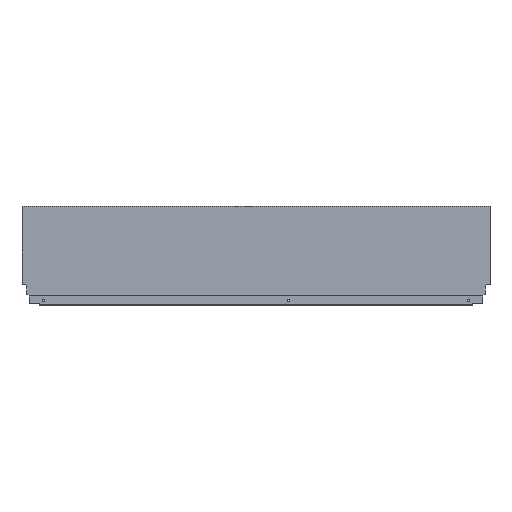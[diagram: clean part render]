
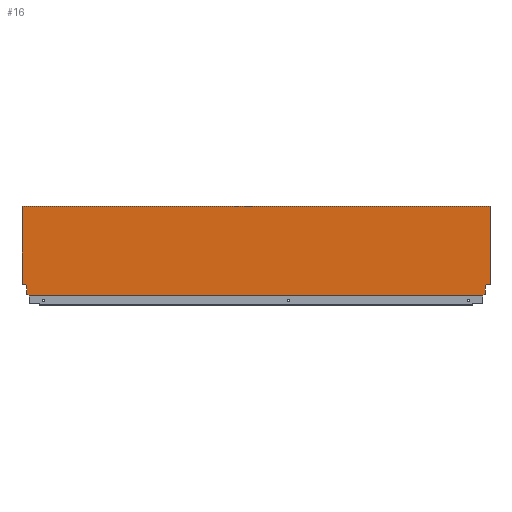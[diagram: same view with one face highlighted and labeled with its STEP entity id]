
A CAD part, top view. The second image highlights one B-rep face of the part: STEP entity #16.
In plain terms, the highlighted planar face has unit normal (0, 0, 1).
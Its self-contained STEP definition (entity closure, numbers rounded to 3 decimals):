
#16 = ADVANCED_FACE ( 'NONE', ( #1205 ), #341, .T. ) ;
#121 = CARTESIAN_POINT ( 'NONE',  ( -7.06, 21.2, 7.5 ) ) ;
#130 = CARTESIAN_POINT ( 'NONE',  ( -852.1, 2.64, 7.5 ) ) ;
#133 = CARTESIAN_POINT ( 'NONE',  ( 0., 21.2, 7.5 ) ) ;
#197 = CARTESIAN_POINT ( 'NONE',  ( -861., 21.2, 7.5 ) ) ;
#203 = CARTESIAN_POINT ( 'NONE',  ( -13.004, 1.146, 7.5 ) ) ;
#204 = CARTESIAN_POINT ( 'NONE',  ( -847.996, 1.146, 7.5 ) ) ;
#230 = CARTESIAN_POINT ( 'NONE',  ( -8.9, 10.765, 7.5 ) ) ;
#236 = CARTESIAN_POINT ( 'NONE',  ( -8.9, 2.64, 7.5 ) ) ;
#237 = CARTESIAN_POINT ( 'NONE',  ( -852.1, 10.765, 7.5 ) ) ;
#244 = CARTESIAN_POINT ( 'NONE',  ( -13.004, 0., 7.5 ) ) ;
#250 = CARTESIAN_POINT ( 'NONE',  ( -847.996, 0., 7.5 ) ) ;
#262 = CARTESIAN_POINT ( 'NONE',  ( -853.94, 21.2, 7.5 ) ) ;
#268 = CARTESIAN_POINT ( 'NONE',  ( -861., 164.7, 7.5 ) ) ;
#272 = CARTESIAN_POINT ( 'NONE',  ( 0., 164.7, 7.5 ) ) ;
#338 = DIRECTION ( 'NONE',  ( 1., 0., 0. ) ) ;
#339 = DIRECTION ( 'NONE',  ( 0., 0., 1. ) ) ;
#341 = PLANE ( 'NONE',  #599 ) ;
#342 = CARTESIAN_POINT ( 'NONE',  ( -861., 0., 7.5 ) ) ;
#380 = VERTEX_POINT ( 'NONE', #230 ) ;
#387 = VERTEX_POINT ( 'NONE', #203 ) ;
#388 = VERTEX_POINT ( 'NONE', #204 ) ;
#391 = VERTEX_POINT ( 'NONE', #197 ) ;
#404 = VERTEX_POINT ( 'NONE', #130 ) ;
#405 = VERTEX_POINT ( 'NONE', #236 ) ;
#406 = VERTEX_POINT ( 'NONE', #237 ) ;
#420 = VERTEX_POINT ( 'NONE', #121 ) ;
#421 = VERTEX_POINT ( 'NONE', #250 ) ;
#427 = VERTEX_POINT ( 'NONE', #244 ) ;
#434 = VERTEX_POINT ( 'NONE', #268 ) ;
#436 = VERTEX_POINT ( 'NONE', #272 ) ;
#437 = VERTEX_POINT ( 'NONE', #133 ) ;
#442 = VERTEX_POINT ( 'NONE', #262 ) ;
#576 = EDGE_CURVE ( 'NONE', #434, #436, #1431, .T. ) ;
#577 = EDGE_CURVE ( 'NONE', #436, #437, #1470, .T. ) ;
#578 = EDGE_CURVE ( 'NONE', #437, #420, #1472, .T. ) ;
#579 = EDGE_CURVE ( 'NONE', #405, #387, #1474, .T. ) ;
#580 = EDGE_CURVE ( 'NONE', #420, #380, #1476, .T. ) ;
#581 = EDGE_CURVE ( 'NONE', #387, #427, #1478, .T. ) ;
#582 = EDGE_CURVE ( 'NONE', #380, #405, #1480, .T. ) ;
#583 = EDGE_CURVE ( 'NONE', #404, #406, #1482, .T. ) ;
#584 = EDGE_CURVE ( 'NONE', #434, #391, #1484, .T. ) ;
#585 = EDGE_CURVE ( 'NONE', #406, #442, #1457, .T. ) ;
#586 = EDGE_CURVE ( 'NONE', #388, #404, #1488, .T. ) ;
#587 = EDGE_CURVE ( 'NONE', #421, #427, #1490, .T. ) ;
#590 = EDGE_CURVE ( 'NONE', #442, #391, #1463, .T. ) ;
#592 = EDGE_CURVE ( 'NONE', #421, #388, #1487, .T. ) ;
#599 = AXIS2_PLACEMENT_3D ( 'NONE', #342, #339, #338 ) ;
#785 = DIRECTION ( 'NONE',  ( 0., 1., 0. ) ) ;
#786 = CARTESIAN_POINT ( 'NONE',  ( -847.996, 1.146, 7.5 ) ) ;
#790 = DIRECTION ( 'NONE',  ( -1., 0., 0. ) ) ;
#796 = DIRECTION ( 'NONE',  ( 1., 0., 0. ) ) ;
#797 = CARTESIAN_POINT ( 'NONE',  ( -861., 0., 7.5 ) ) ;
#798 = DIRECTION ( 'NONE',  ( -0.94, 0.342, 0. ) ) ;
#799 = CARTESIAN_POINT ( 'NONE',  ( -852.1, 2.64, 7.5 ) ) ;
#800 = DIRECTION ( 'NONE',  ( -0.174, 0.985, 0. ) ) ;
#801 = CARTESIAN_POINT ( 'NONE',  ( -866., 21.2, 7.5 ) ) ;
#802 = DIRECTION ( 'NONE',  ( 0., -1., 0. ) ) ;
#803 = CARTESIAN_POINT ( 'NONE',  ( -861., 0., 7.5 ) ) ;
#804 = DIRECTION ( 'NONE',  ( 0., 1., 0. ) ) ;
#805 = CARTESIAN_POINT ( 'NONE',  ( -852.1, 10.765, 7.5 ) ) ;
#806 = DIRECTION ( 'NONE',  ( 0., -1., 0. ) ) ;
#807 = CARTESIAN_POINT ( 'NONE',  ( -8.9, 10.765, 7.5 ) ) ;
#808 = DIRECTION ( 'NONE',  ( 0., -1., 0. ) ) ;
#809 = CARTESIAN_POINT ( 'NONE',  ( -13.004, 1.146, 7.5 ) ) ;
#810 = DIRECTION ( 'NONE',  ( -0.174, -0.985, 0. ) ) ;
#811 = CARTESIAN_POINT ( 'NONE',  ( -7.06, 21.2, 7.5 ) ) ;
#812 = DIRECTION ( 'NONE',  ( -0.94, -0.342, 0. ) ) ;
#813 = CARTESIAN_POINT ( 'NONE',  ( -8.9, 2.64, 7.5 ) ) ;
#814 = DIRECTION ( 'NONE',  ( -1., 0., 0. ) ) ;
#815 = CARTESIAN_POINT ( 'NONE',  ( 0., 21.2, 7.5 ) ) ;
#816 = DIRECTION ( 'NONE',  ( 0., -1., 0. ) ) ;
#817 = CARTESIAN_POINT ( 'NONE',  ( 0., 0., 7.5 ) ) ;
#818 = DIRECTION ( 'NONE',  ( 1., 0., 0. ) ) ;
#819 = CARTESIAN_POINT ( 'NONE',  ( -853.94, 21.2, 7.5 ) ) ;
#825 = CARTESIAN_POINT ( 'NONE',  ( -861., 164.7, 7.5 ) ) ;
#1143 = ORIENTED_EDGE ( 'NONE', *, *, #590, .F. ) ;
#1144 = ORIENTED_EDGE ( 'NONE', *, *, #585, .F. ) ;
#1145 = ORIENTED_EDGE ( 'NONE', *, *, #584, .T. ) ;
#1156 = ORIENTED_EDGE ( 'NONE', *, *, #583, .F. ) ;
#1157 = ORIENTED_EDGE ( 'NONE', *, *, #586, .F. ) ;
#1158 = ORIENTED_EDGE ( 'NONE', *, *, #592, .F. ) ;
#1159 = ORIENTED_EDGE ( 'NONE', *, *, #587, .T. ) ;
#1160 = ORIENTED_EDGE ( 'NONE', *, *, #581, .F. ) ;
#1161 = ORIENTED_EDGE ( 'NONE', *, *, #579, .F. ) ;
#1162 = ORIENTED_EDGE ( 'NONE', *, *, #582, .F. ) ;
#1163 = ORIENTED_EDGE ( 'NONE', *, *, #580, .F. ) ;
#1196 = EDGE_LOOP ( 'NONE', ( #1145, #1143, #1144, #1156, #1157, #1158, #1159, #1160, #1161, #1162, #1163, #1277, #1276, #1275 ) ) ;
#1205 = FACE_OUTER_BOUND ( 'NONE', #1196, .T. ) ;
#1275 = ORIENTED_EDGE ( 'NONE', *, *, #576, .F. ) ;
#1276 = ORIENTED_EDGE ( 'NONE', *, *, #577, .F. ) ;
#1277 = ORIENTED_EDGE ( 'NONE', *, *, #578, .F. ) ;
#1431 = LINE ( 'NONE', #825, #1468 ) ;
#1457 = LINE ( 'NONE', #819, #1486 ) ;
#1463 = LINE ( 'NONE', #801, #1496 ) ;
#1468 = VECTOR ( 'NONE', #818, 1000. ) ;
#1469 = VECTOR ( 'NONE', #785, 1000. ) ;
#1470 = LINE ( 'NONE', #817, #1471 ) ;
#1471 = VECTOR ( 'NONE', #816, 1000. ) ;
#1472 = LINE ( 'NONE', #815, #1473 ) ;
#1473 = VECTOR ( 'NONE', #814, 1000. ) ;
#1474 = LINE ( 'NONE', #813, #1475 ) ;
#1475 = VECTOR ( 'NONE', #812, 1000. ) ;
#1476 = LINE ( 'NONE', #811, #1477 ) ;
#1477 = VECTOR ( 'NONE', #810, 1000. ) ;
#1478 = LINE ( 'NONE', #809, #1479 ) ;
#1479 = VECTOR ( 'NONE', #808, 1000. ) ;
#1480 = LINE ( 'NONE', #807, #1481 ) ;
#1481 = VECTOR ( 'NONE', #806, 1000. ) ;
#1482 = LINE ( 'NONE', #805, #1483 ) ;
#1483 = VECTOR ( 'NONE', #804, 1000. ) ;
#1484 = LINE ( 'NONE', #803, #1485 ) ;
#1485 = VECTOR ( 'NONE', #802, 1000. ) ;
#1486 = VECTOR ( 'NONE', #800, 1000. ) ;
#1487 = LINE ( 'NONE', #786, #1469 ) ;
#1488 = LINE ( 'NONE', #799, #1489 ) ;
#1489 = VECTOR ( 'NONE', #798, 1000. ) ;
#1490 = LINE ( 'NONE', #797, #1491 ) ;
#1491 = VECTOR ( 'NONE', #796, 1000. ) ;
#1496 = VECTOR ( 'NONE', #790, 1000. ) ;
